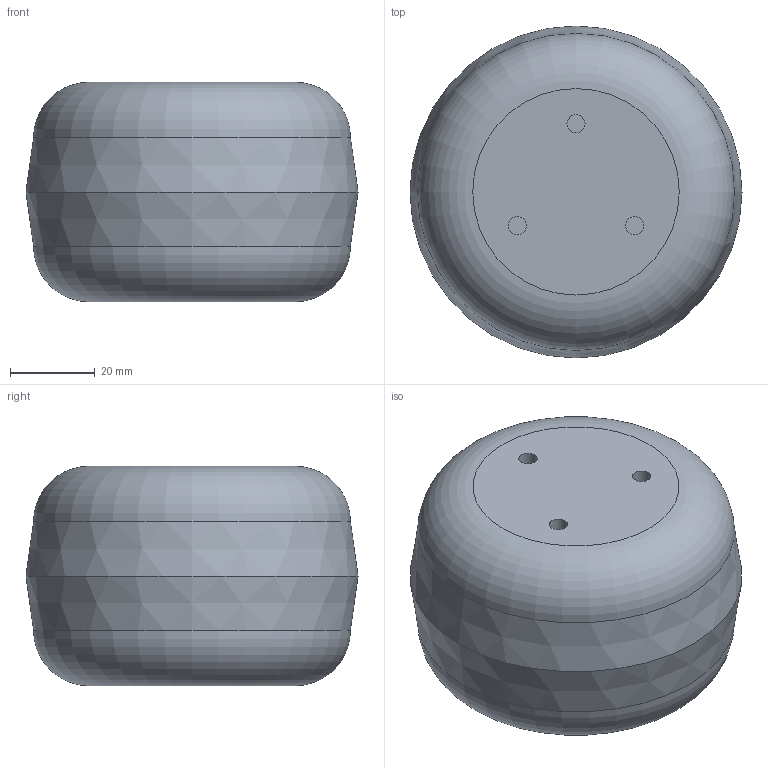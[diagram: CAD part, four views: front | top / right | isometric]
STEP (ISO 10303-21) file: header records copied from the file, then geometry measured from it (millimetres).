
FILE_DESCRIPTION(/* description */ ('STEP AP242 Edition 2','CAx-IF Rec.Pracs.---Representation and Presentation of Product Manufacturing Information (PMI)---4.0---2014-10-13','CAx-IF Rec.Pracs.---3D Tessellated Geometry---0.4---2014-09-14','2;1','CAx-IF Rec.Pracs.---User Defined Attributes---1.5---2016-08-15'),/* implementation_level */ '2;1');
FILE_NAME(/* name */ 'a2aba01d-b4d4-424d-aa68-0c015d5081bf',/* time_stamp */ '2026-09-25T11:33:37Z',/* author */ (''),/* organization */ (''),/* preprocessor_version */ 'ST-DEVELOPER v20',/* originating_system */ 'ONSHAPE BY PTC INC, 1.221',/* authorisation */ ' ');
FILE_SCHEMA (('AP242_MANAGED_MODEL_BASED_3D_ENGINEERING_MIM_LF { 1 0 10303 442 3 1 4 }'));
Length unit declared in the file: metre
Products named in the file (1): Part 1
Bounding box: 78.16 x 78.16 x 51.66 mm (x, y, z)
Volume: 215344.7 mm3; surface area: 18488.5 mm2
Topology: 1 solids, 1 shells, 12 faces, 18 edges, 11 vertices
Faces by surface type: plane 5, cylinder 3, torus 2, cone 2
Full cylindrical faces by diameter (mm): 4.3 x3
Entity records: 256 total; most frequent: DIRECTION 48, CARTESIAN_POINT 35, AXIS2_PLACEMENT_3D 24, ORIENTED_EDGE 22, EDGE_LOOP 22, FACE_BOUND 22, ADVANCED_FACE 12, EDGE_CURVE 11
